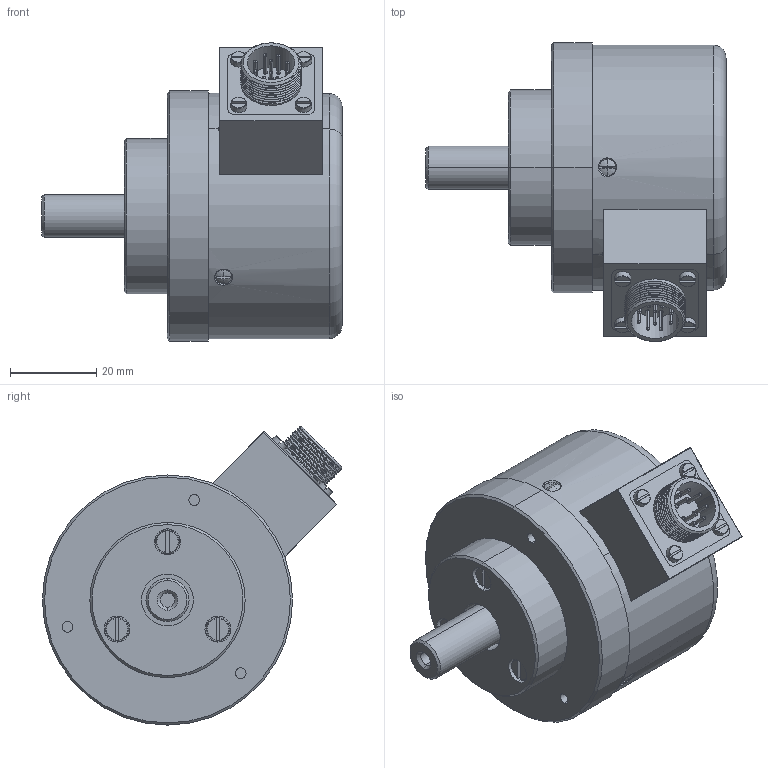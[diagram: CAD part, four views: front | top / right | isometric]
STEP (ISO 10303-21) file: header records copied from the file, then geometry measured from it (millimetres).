
FILE_DESCRIPTION (( 'STEP AP214' ), '1' );
FILE_NAME ('ËÈÐ-158Ä_èñï 1.STEP', '2017-05-23T08:54:38', ( '' ), ( '' ), 'SwSTEP 2.0', 'SolidWorks 2013', '' );
FILE_SCHEMA (( 'AUTOMOTIVE_DESIGN' ));
Length unit declared in the file: millimetre
Products named in the file (1): ËÈÐ-158Ä_èñï 1
Bounding box: 69.6 x 69.37 x 69.15 mm (x, y, z)
Surface area: 19098.2 mm2 (no closed solid volume)
Topology: 0 solids, 30 shells, 216 faces, 644 edges, 443 vertices
Faces by surface type: cylinder 74, plane 61, torus 36, cone 24, sphere 13, bspline 8
Entity records: 13683 total; most frequent: CARTESIAN_POINT 5596, DIRECTION 1255, ORIENTED_EDGE 1053, EDGE_CURVE 643, AXIS2_PLACEMENT_3D 541, VERTEX_POINT 443, CIRCLE 332, EDGE_LOOP 255
